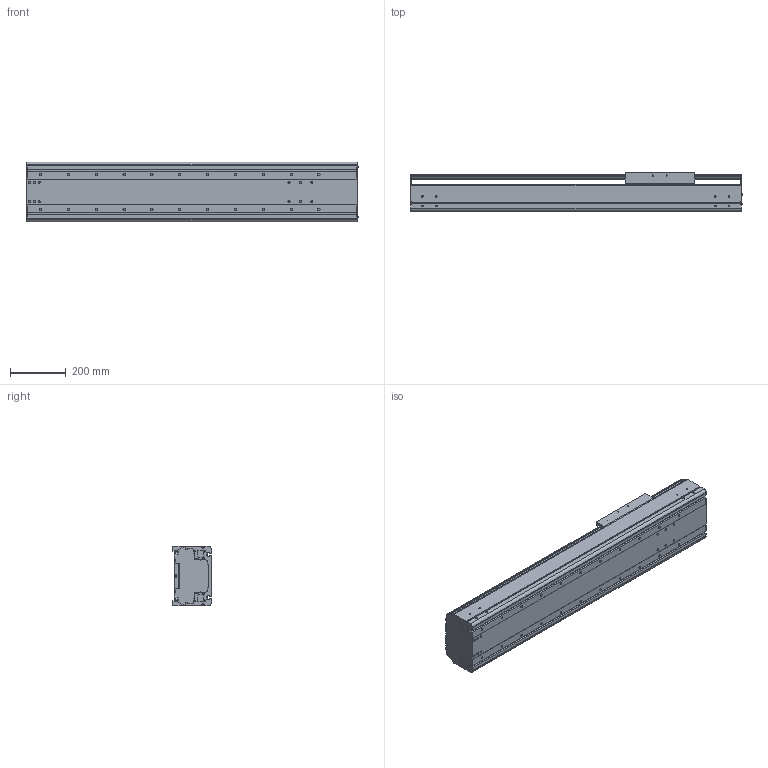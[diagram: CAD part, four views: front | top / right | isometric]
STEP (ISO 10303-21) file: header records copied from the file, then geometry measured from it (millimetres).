
FILE_DESCRIPTION((''),'2;1');
FILE_NAME('BE60J-ST-M_N-70_IGS_PRT','2017-06-18T',(' '),(''),'PRO/ENGINEER BY PARAMETRIC TECHNOLOGY CORPORATION, 2015030','PRO/ENGINEER BY PARAMETRIC TECHNOLOGY CORPORATION, 2015030','');
FILE_SCHEMA(('CONFIG_CONTROL_DESIGN'));
Length unit declared in the file: millimetre
Products named in the file (1): BE60J-ST-M_N-70_IGS_PRT
Bounding box: 1192.4 x 140 x 214 mm (x, y, z)
Volume: 9391152.3 mm3; surface area: 2578821.3 mm2
Topology: 2 solids, 104 shells, 1369 faces, 3816 edges, 2533 vertices
Faces by surface type: cylinder 686, plane 583, cone 52, torus 24, sphere 24
Entity records: 45777 total; most frequent: CARTESIAN_POINT 10100, DIRECTION 7480, ORIENTED_EDGE 7132, EDGE_CURVE 3766, AXIS2_PLACEMENT_3D 2762, VERTEX_POINT 2532, VECTOR 1956, LINE 1956
